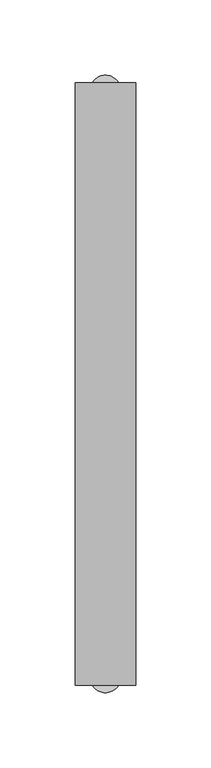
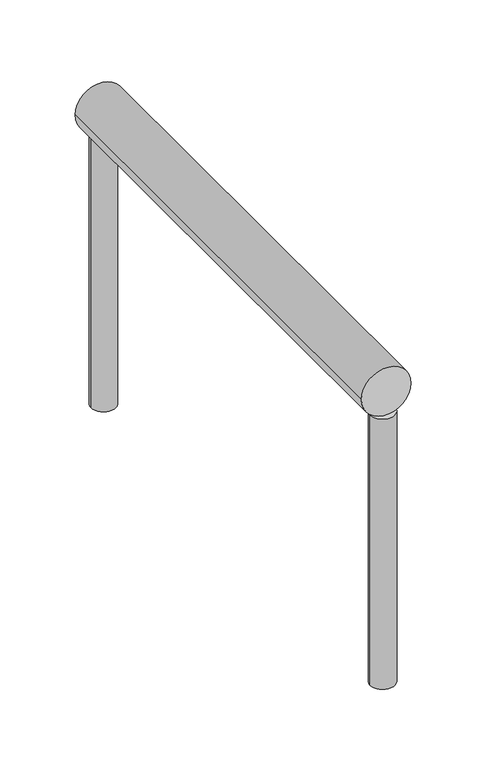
"""IFC4 building model written with IfcOpenShell, lengths in millimetres: railing geometry, Geländer-1."""

from ifc_helpers import new_model, si_unit, point, frame, frame_2d, origin, place, context, project, spatial, circle_curve, trimmed, segment, composite_curve, outline, extrude, source, transform, mapped, element, save


def railing_068a3bbe(model_context):
    return source(origin(), model_context, "Body", "SweptSolid", [
        extrude(outline(composite_curve([segment(trimmed(circle_curve(frame_2d((1300.0, 3619.1335905)), 20.0), [point((1300.0, 3639.1335905))], [point((1300.0, 3599.1335905))], False, "CARTESIAN"), True, "CONTINUOUS"), segment(trimmed(circle_curve(frame_2d((1300.0, 3619.1335905)), 20.0), [point((1300.0, 3599.1335905))], [point((1300.0, 3639.1335905))], False, "CARTESIAN"), True, "CONTINUOUS")], self_intersect=False)), frame((0.0, -1120.0, 0.0), z_axis=(0.0, 1.0, 0.0), x_axis=(0.0, 0.0, 1.0)), (0.0, 0.0, 1.0), 400.0),
        extrude(outline(composite_curve([segment(trimmed(circle_curve(frame_2d((3619.1335905, -1115.0)), 10.0), [point((3629.1335905, -1115.0))], [point((3609.1335905, -1115.0))], False, "CARTESIAN"), True, "CONTINUOUS"), segment(trimmed(circle_curve(frame_2d((3619.1335905, -1115.0)), 10.0), [point((3609.1335905, -1115.0))], [point((3629.1335905, -1115.0))], False, "CARTESIAN"), True, "CONTINUOUS")], self_intersect=False)), frame((0.0, 0.0, 1050.0), z_axis=(0.0, 0.0, 1.0), x_axis=(1.0, 0.0, 0.0)), (0.0, 0.0, 1.0), 230.0),
        extrude(outline(composite_curve([segment(trimmed(circle_curve(frame_2d((3619.1335905, -725.0)), 10.0), [point((3629.1335905, -725.0))], [point((3609.1335905, -725.0))], False, "CARTESIAN"), True, "CONTINUOUS"), segment(trimmed(circle_curve(frame_2d((3619.1335905, -725.0)), 10.0), [point((3609.1335905, -725.0))], [point((3629.1335905, -725.0))], False, "CARTESIAN"), True, "CONTINUOUS")], self_intersect=False)), frame((0.0, 0.0, 1050.0), z_axis=(0.0, 0.0, 1.0), x_axis=(1.0, 0.0, 0.0)), (0.0, 0.0, 1.0), 230.0),
    ])


if __name__ == "__main__":
    model = new_model("IFC4")
    model_context = context("Model", 3, world=origin())
    ifc_project = project(units=[si_unit("LENGTHUNIT", "METRE", prefix="MILLI")], contexts=[model_context])
    site = spatial("IfcSite", under=ifc_project)
    building = spatial("IfcBuilding", under=site)
    placement = place(None, origin())
    railing_shape = railing_068a3bbe(model_context)
    element("IfcRailing", 1, ObjectType="Geländer-1", at=placement, inside=building, context=model_context, shape_type="MappedRepresentation", body=[
        mapped(railing_shape, transform((0.0, 0.0, 0.0), x_axis=(1.0, 0.0, 0.0), y_axis=(0.0, 1.0, 0.0), z_axis=(0.0, 0.0, 1.0))),
    ])
    save(model, "model.ifc")
